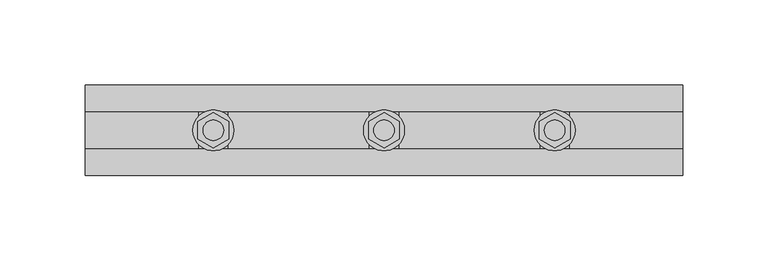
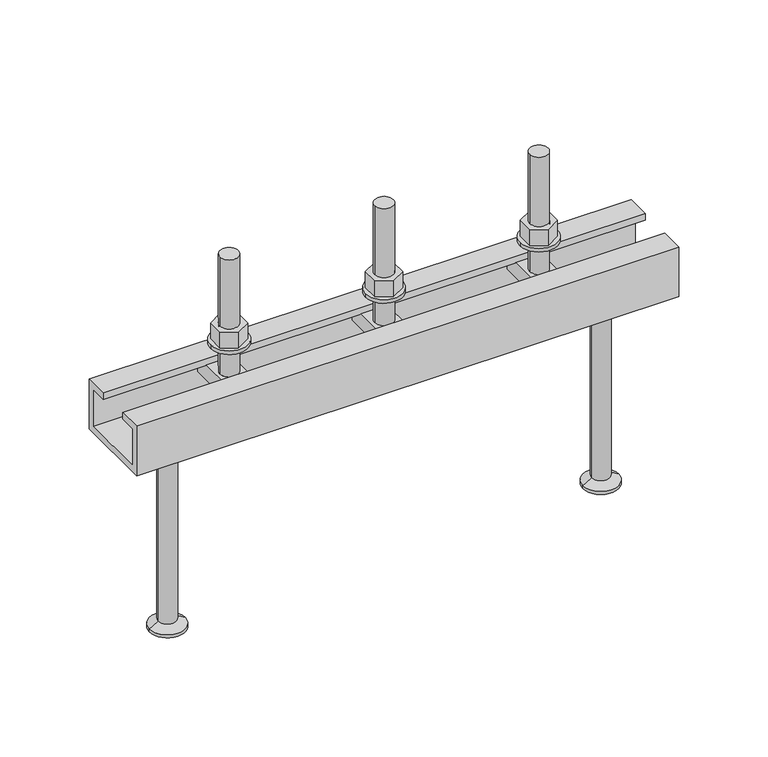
"""IFC4 building model written with IfcOpenShell, lengths in millimetres: fastener geometry, JTA-K JORDAHL® AnchorChannels : JTA-K L=350 mm."""

from ifc_helpers import new_model, si_unit, point, frame, frame_2d, origin, place, context, project, spatial, polyline, circle_curve, trimmed, segment, composite_curve, outline, extrude, source, transform, mapped, element, save
from ifc_brep_helpers import plane_surface, cylinder_surface, revolved_surface, advanced_brep


def fastener_4a2195e9(model_context):
    return source(origin(), model_context, "Body", "SolidModel", [
        extrude(outline(polyline([(175.0, -10.3923048), (166.0, -5.1961524), (166.0, 5.1961524), (175.0, 10.3923048), (184.0, 5.1961524), (184.0, -5.1961524), (175.0, -10.3923048)]), holes=[composite_curve([segment(trimmed(circle_curve(frame_2d((175.0, 0.0)), 6.0), [point((169.0, 0.0))], [point((181.0, 0.0))], True, "CARTESIAN"), True, "CONTINUOUS"), segment(trimmed(circle_curve(frame_2d((175.0, 0.0)), 6.0), [point((181.0, 0.0))], [point((169.0, 0.0))], True, "CARTESIAN"), True, "CONTINUOUS")], self_intersect=False)]), frame((0.0, 0.0, 17.5), z_axis=(0.0, 0.0, 1.0), x_axis=(1.0, 0.0, 0.0)), (0.0, 0.0, 1.0), 10.8),
        extrude(outline(composite_curve([segment(trimmed(circle_curve(frame_2d((175.0, 0.0)), 12.0), [point((163.0, 0.0))], [point((187.0, 0.0))], False, "CARTESIAN"), True, "CONTINUOUS"), segment(trimmed(circle_curve(frame_2d((175.0, 0.0)), 12.0), [point((187.0, 0.0))], [point((163.0, 0.0))], False, "CARTESIAN"), True, "CONTINUOUS")], self_intersect=False), holes=[composite_curve([segment(trimmed(circle_curve(frame_2d((175.0, 0.0)), 6.5), [point((168.5, 0.0))], [point((181.5, 0.0))], True, "CARTESIAN"), True, "CONTINUOUS"), segment(trimmed(circle_curve(frame_2d((175.0, 0.0)), 6.5), [point((181.5, 0.0))], [point((168.5, 0.0))], True, "CARTESIAN"), True, "CONTINUOUS")], self_intersect=False)]), frame((0.0, 0.0, 15.0), z_axis=(0.0, 0.0, 1.0), x_axis=(1.0, 0.0, 0.0)), (0.0, 0.0, 1.0), 2.5),
        advanced_brep(
        [(183.5, -20.7, -4.5), (183.5, -20.7, -14.5), (183.5, 20.7, -14.5), (183.5, 20.7, -4.5), (166.5, -20.7, -4.5), (166.5, 20.7, -4.5), (166.5, 20.7, -14.5), (166.5, -20.7, -14.5), (181.0, 0.0, -4.5), (169.0, 0.0, -4.5), (169.0, 0.0, 75.5), (181.0, 0.0, 75.5)],
        [
            (0, 1),
            (1, 2),
            (2, 3),
            (3, 0),
            (4, 5),
            (5, 6),
            (6, 7),
            (7, 4),
            (3, 5),
            (4, 0),
            (8, 9, circle_curve(frame((175.0, 0.0, -4.5), z_axis=(0.0, 0.0, -1.0), x_axis=(1.0, 0.0, 0.0)), 6.0)),
            (9, 8, circle_curve(frame((175.0, 0.0, -4.5), z_axis=(0.0, 0.0, -1.0), x_axis=(1.0, 0.0, 0.0)), 6.0)),
            (2, 6),
            (1, 7),
            (10, 11, circle_curve(frame((175.0, 0.0, 75.5), z_axis=(0.0, 0.0, 1.0), x_axis=(1.0, 0.0, 0.0)), 6.0)),
            (11, 10, circle_curve(frame((175.0, 0.0, 75.5), z_axis=(0.0, 0.0, 1.0), x_axis=(1.0, 0.0, 0.0)), 6.0)),
            (11, 8),
            (9, 10),
        ],
        [
            plane_surface(frame((183.5, 20.7, -4.5), z_axis=(1.0, 0.0, 0.0), x_axis=(0.0, 1.0, 0.0))),
            plane_surface(frame((166.5, 20.7, -4.5), z_axis=(-1.0, 0.0, 0.0), x_axis=(0.0, -1.0, 0.0))),
            plane_surface(frame((183.5, -20.7, -4.5), z_axis=(0.0, 0.0, 1.0), x_axis=(-1.0, 0.0, 0.0))),
            plane_surface(frame((183.5, 20.7, -4.5), z_axis=(0.0, 1.0, 0.0), x_axis=(-1.0, 0.0, 0.0))),
            plane_surface(frame((183.5, 20.7, -14.5), z_axis=(0.0, 0.0, -1.0), x_axis=(-1.0, 0.0, 0.0))),
            plane_surface(frame((183.5, -20.7, -14.5), z_axis=(0.0, -1.0, 0.0), x_axis=(-1.0, 0.0, 0.0))),
            plane_surface(frame((181.0, 0.0, 75.5), z_axis=(0.0, 0.0, 1.0), x_axis=(0.0, -1.0, 0.0))),
            cylinder_surface(frame((175.0, 0.0, -4.5), z_axis=(0.0, 0.0, 1.0), x_axis=(1.0, 0.0, 0.0)), 6.0),
        ],
        [
            (0, [[1, 2, 3, 4]]),
            (1, [[5, 6, 7, 8]]),
            (2, [[9, -5, 10, -4], [11, 12]]),
            (3, [[13, -6, -9, -3]]),
            (4, [[14, -7, -13, -2]]),
            (5, [[-10, -8, -14, -1]]),
            (6, [[15, 16]]),
            (7, [[17, -12, 18, -16]]),
            (7, [[-18, -11, -17, -15]]),
        ],
    ),
        extrude(outline(polyline([(275.0, -10.3923048), (266.0, -5.1961524), (266.0, 5.1961524), (275.0, 10.3923048), (284.0, 5.1961524), (284.0, -5.1961524), (275.0, -10.3923048)]), holes=[composite_curve([segment(trimmed(circle_curve(frame_2d((275.0, 0.0)), 6.0), [point((269.0, 0.0))], [point((281.0, 0.0))], True, "CARTESIAN"), True, "CONTINUOUS"), segment(trimmed(circle_curve(frame_2d((275.0, 0.0)), 6.0), [point((281.0, 0.0))], [point((269.0, 0.0))], True, "CARTESIAN"), True, "CONTINUOUS")], self_intersect=False)]), frame((0.0, 0.0, 17.5), z_axis=(0.0, 0.0, 1.0), x_axis=(1.0, 0.0, 0.0)), (0.0, 0.0, 1.0), 10.8),
        extrude(outline(composite_curve([segment(trimmed(circle_curve(frame_2d((275.0, 0.0)), 12.0), [point((263.0, 0.0))], [point((287.0, 0.0))], False, "CARTESIAN"), True, "CONTINUOUS"), segment(trimmed(circle_curve(frame_2d((275.0, 0.0)), 12.0), [point((287.0, 0.0))], [point((263.0, 0.0))], False, "CARTESIAN"), True, "CONTINUOUS")], self_intersect=False), holes=[composite_curve([segment(trimmed(circle_curve(frame_2d((275.0, 0.0)), 6.5), [point((268.5, 0.0))], [point((281.5, 0.0))], True, "CARTESIAN"), True, "CONTINUOUS"), segment(trimmed(circle_curve(frame_2d((275.0, 0.0)), 6.5), [point((281.5, 0.0))], [point((268.5, 0.0))], True, "CARTESIAN"), True, "CONTINUOUS")], self_intersect=False)]), frame((0.0, 0.0, 15.0), z_axis=(0.0, 0.0, 1.0), x_axis=(1.0, 0.0, 0.0)), (0.0, 0.0, 1.0), 2.5),
        extrude(outline(polyline([(75.0, -10.3923048), (66.0, -5.1961524), (66.0, 5.1961524), (75.0, 10.3923048), (84.0, 5.1961524), (84.0, -5.1961524), (75.0, -10.3923048)]), holes=[composite_curve([segment(trimmed(circle_curve(frame_2d((75.0, 0.0)), 6.0), [point((69.0, 0.0))], [point((81.0, 0.0))], True, "CARTESIAN"), True, "CONTINUOUS"), segment(trimmed(circle_curve(frame_2d((75.0, 0.0)), 6.0), [point((81.0, 0.0))], [point((69.0, 0.0))], True, "CARTESIAN"), True, "CONTINUOUS")], self_intersect=False)]), frame((0.0, 0.0, 17.5), z_axis=(0.0, 0.0, 1.0), x_axis=(1.0, 0.0, 0.0)), (0.0, 0.0, 1.0), 10.8),
        extrude(outline(composite_curve([segment(trimmed(circle_curve(frame_2d((75.0, 0.0)), 12.0), [point((63.0, 0.0))], [point((87.0, 0.0))], False, "CARTESIAN"), True, "CONTINUOUS"), segment(trimmed(circle_curve(frame_2d((75.0, 0.0)), 12.0), [point((87.0, 0.0))], [point((63.0, 0.0))], False, "CARTESIAN"), True, "CONTINUOUS")], self_intersect=False), holes=[composite_curve([segment(trimmed(circle_curve(frame_2d((75.0, 0.0)), 6.5), [point((68.5, 0.0))], [point((81.5, 0.0))], True, "CARTESIAN"), True, "CONTINUOUS"), segment(trimmed(circle_curve(frame_2d((75.0, 0.0)), 6.5), [point((81.5, 0.0))], [point((68.5, 0.0))], True, "CARTESIAN"), True, "CONTINUOUS")], self_intersect=False)]), frame((0.0, 0.0, 15.0), z_axis=(0.0, 0.0, 1.0), x_axis=(1.0, 0.0, 0.0)), (0.0, 0.0, 1.0), 2.5),
        advanced_brep(
        [(283.5, -20.7, -4.5), (283.5, -20.7, -14.5), (283.5, 20.7, -14.5), (283.5, 20.7, -4.5), (266.5, -20.7, -4.5), (266.5, 20.7, -4.5), (266.5, 20.7, -14.5), (266.5, -20.7, -14.5), (281.0, 0.0, -4.5), (269.0, 0.0, -4.5), (269.0, 0.0, 75.5), (281.0, 0.0, 75.5)],
        [
            (0, 1),
            (1, 2),
            (2, 3),
            (3, 0),
            (4, 5),
            (5, 6),
            (6, 7),
            (7, 4),
            (3, 5),
            (4, 0),
            (8, 9, circle_curve(frame((275.0, 0.0, -4.5), z_axis=(0.0, 0.0, -1.0), x_axis=(1.0, 0.0, 0.0)), 6.0)),
            (9, 8, circle_curve(frame((275.0, 0.0, -4.5), z_axis=(0.0, 0.0, -1.0), x_axis=(1.0, 0.0, 0.0)), 6.0)),
            (2, 6),
            (1, 7),
            (10, 11, circle_curve(frame((275.0, 0.0, 75.5), z_axis=(0.0, 0.0, 1.0), x_axis=(1.0, 0.0, 0.0)), 6.0)),
            (11, 10, circle_curve(frame((275.0, 0.0, 75.5), z_axis=(0.0, 0.0, 1.0), x_axis=(1.0, 0.0, 0.0)), 6.0)),
            (11, 8),
            (9, 10),
        ],
        [
            plane_surface(frame((283.5, 20.7, -4.5), z_axis=(1.0, 0.0, 0.0), x_axis=(0.0, 1.0, 0.0))),
            plane_surface(frame((266.5, 20.7, -4.5), z_axis=(-1.0, 0.0, 0.0), x_axis=(0.0, -1.0, 0.0))),
            plane_surface(frame((283.5, -20.7, -4.5), z_axis=(0.0, 0.0, 1.0), x_axis=(-1.0, 0.0, 0.0))),
            plane_surface(frame((283.5, 20.7, -4.5), z_axis=(0.0, 1.0, 0.0), x_axis=(-1.0, 0.0, 0.0))),
            plane_surface(frame((283.5, 20.7, -14.5), z_axis=(0.0, 0.0, -1.0), x_axis=(-1.0, 0.0, 0.0))),
            plane_surface(frame((283.5, -20.7, -14.5), z_axis=(0.0, -1.0, 0.0), x_axis=(-1.0, 0.0, 0.0))),
            plane_surface(frame((281.0, 0.0, 75.5), z_axis=(0.0, 0.0, 1.0), x_axis=(0.0, -1.0, 0.0))),
            cylinder_surface(frame((275.0, 0.0, -4.5), z_axis=(0.0, 0.0, 1.0), x_axis=(1.0, 0.0, 0.0)), 6.0),
        ],
        [
            (0, [[1, 2, 3, 4]]),
            (1, [[5, 6, 7, 8]]),
            (2, [[9, -5, 10, -4], [11, 12]]),
            (3, [[13, -6, -9, -3]]),
            (4, [[14, -7, -13, -2]]),
            (5, [[-10, -8, -14, -1]]),
            (6, [[15, 16]]),
            (7, [[17, -12, 18, -16]]),
            (7, [[-18, -11, -17, -15]]),
        ],
    ),
        advanced_brep(
        [(83.5, -20.7, -4.5), (83.5, -20.7, -14.5), (83.5, 20.7, -14.5), (83.5, 20.7, -4.5), (66.5, -20.7, -4.5), (66.5, 20.7, -4.5), (66.5, 20.7, -14.5), (66.5, -20.7, -14.5), (81.0, 0.0, -4.5), (69.0, 0.0, -4.5), (69.0, 0.0, 75.5), (81.0, 0.0, 75.5)],
        [
            (0, 1),
            (1, 2),
            (2, 3),
            (3, 0),
            (4, 5),
            (5, 6),
            (6, 7),
            (7, 4),
            (3, 5),
            (4, 0),
            (8, 9, circle_curve(frame((75.0, 0.0, -4.5), z_axis=(0.0, 0.0, -1.0), x_axis=(1.0, 0.0, 0.0)), 6.0)),
            (9, 8, circle_curve(frame((75.0, 0.0, -4.5), z_axis=(0.0, 0.0, -1.0), x_axis=(1.0, 0.0, 0.0)), 6.0)),
            (2, 6),
            (1, 7),
            (10, 11, circle_curve(frame((75.0, 0.0, 75.5), z_axis=(0.0, 0.0, 1.0), x_axis=(1.0, 0.0, 0.0)), 6.0)),
            (11, 10, circle_curve(frame((75.0, 0.0, 75.5), z_axis=(0.0, 0.0, 1.0), x_axis=(1.0, 0.0, 0.0)), 6.0)),
            (11, 8),
            (9, 10),
        ],
        [
            plane_surface(frame((83.5, 20.7, -4.5), z_axis=(1.0, 0.0, 0.0), x_axis=(0.0, 1.0, 0.0))),
            plane_surface(frame((66.5, 20.7, -4.5), z_axis=(-1.0, 0.0, 0.0), x_axis=(0.0, -1.0, 0.0))),
            plane_surface(frame((83.5, -20.7, -4.5), z_axis=(0.0, 0.0, 1.0), x_axis=(-1.0, 0.0, 0.0))),
            plane_surface(frame((83.5, 20.7, -4.5), z_axis=(0.0, 1.0, 0.0), x_axis=(-1.0, 0.0, 0.0))),
            plane_surface(frame((83.5, 20.7, -14.5), z_axis=(0.0, 0.0, -1.0), x_axis=(-1.0, 0.0, 0.0))),
            plane_surface(frame((83.5, -20.7, -14.5), z_axis=(0.0, -1.0, 0.0), x_axis=(-1.0, 0.0, 0.0))),
            plane_surface(frame((81.0, 0.0, 75.5), z_axis=(0.0, 0.0, 1.0), x_axis=(0.0, -1.0, 0.0))),
            cylinder_surface(frame((75.0, 0.0, -4.5), z_axis=(0.0, 0.0, 1.0), x_axis=(1.0, 0.0, 0.0)), 6.0),
        ],
        [
            (0, [[1, 2, 3, 4]]),
            (1, [[5, 6, 7, 8]]),
            (2, [[9, -5, 10, -4], [11, 12]]),
            (3, [[13, -6, -9, -3]]),
            (4, [[14, -7, -13, -2]]),
            (5, [[-10, -8, -14, -1]]),
            (6, [[15, 16]]),
            (7, [[17, -12, 18, -16]]),
            (7, [[-18, -11, -17, -15]]),
        ],
    ),
        advanced_brep(
        [(315.0, 0.0, -34.0), (297.5, 0.0, -34.0), (332.5, 0.0, -34.0), (303.5, 0.0, -165.0), (315.0, 0.0, -165.0), (326.5, 0.0, -165.0), (303.5, 0.0, -163.0), (326.5, 0.0, -163.0), (309.2, 0.0, -159.7091035), (320.8, 0.0, -159.7091035), (309.2, 0.0, -37.0), (320.8, 0.0, -37.0)],
        [
            (0, 1),
            (1, 2, circle_curve(frame((315.0, 0.0, -34.0), z_axis=(0.0, 0.0, 1.0), x_axis=(1.0, 0.0, 0.0)), 17.5)),
            (2, 0),
            (2, 1, circle_curve(frame((315.0, 0.0, -34.0), z_axis=(0.0, 0.0, 1.0), x_axis=(1.0, 0.0, 0.0)), 17.5)),
            (3, 4),
            (4, 5),
            (5, 3, circle_curve(frame((315.0, 0.0, -165.0), z_axis=(0.0, 0.0, -1.0), x_axis=(1.0, 0.0, 0.0)), 11.5)),
            (3, 5, circle_curve(frame((315.0, 0.0, -165.0), z_axis=(0.0, 0.0, -1.0), x_axis=(1.0, 0.0, 0.0)), 11.5)),
            (6, 3),
            (5, 7),
            (7, 6, circle_curve(frame((315.0, 0.0, -163.0), z_axis=(0.0, 0.0, -1.0), x_axis=(1.0, 0.0, 0.0)), 11.5)),
            (6, 7, circle_curve(frame((315.0, 0.0, -163.0), z_axis=(0.0, 0.0, -1.0), x_axis=(1.0, 0.0, 0.0)), 11.5)),
            (8, 6),
            (7, 9),
            (9, 8, circle_curve(frame((315.0, 0.0, -159.7091035), z_axis=(0.0, 0.0, -1.0), x_axis=(1.0, 0.0, 0.0)), 5.8)),
            (8, 9, circle_curve(frame((315.0, 0.0, -159.7091035), z_axis=(0.0, 0.0, -1.0), x_axis=(1.0, 0.0, 0.0)), 5.8)),
            (10, 8),
            (9, 11),
            (11, 10, circle_curve(frame((315.0, 0.0, -37.0), z_axis=(0.0, 0.0, -1.0), x_axis=(1.0, 0.0, 0.0)), 5.8)),
            (10, 11, circle_curve(frame((315.0, 0.0, -37.0), z_axis=(0.0, 0.0, -1.0), x_axis=(1.0, 0.0, 0.0)), 5.8)),
            (1, 10),
            (11, 2),
        ],
        [
            plane_surface(frame((315.0, 0.0, -34.0), z_axis=(0.0, 0.0, 1.0), x_axis=(1.0, 0.0, 0.0))),
            plane_surface(frame((315.0, 0.0, -165.0), z_axis=(0.0, 0.0, -1.0), x_axis=(1.0, 0.0, 0.0))),
            cylinder_surface(frame((315.0, 0.0, 2345.3150031), z_axis=(0.0, 0.0, 1.0), x_axis=(1.0, 0.0, 0.0)), 11.5),
            revolved_surface(polyline([(326.5, 0.0, -163.0), (320.8, 0.0, -159.7091035)]), (315.0, 0.0, 2345.3150031), (0.0, 0.0, 1.0)),
            cylinder_surface(frame((315.0, 0.0, 2345.3150031), z_axis=(0.0, 0.0, 1.0), x_axis=(1.0, 0.0, 0.0)), 5.8),
            revolved_surface(polyline([(320.8, 0.0, -37.0), (332.5, 0.0, -34.0)]), (315.0, 0.0, 2345.3150031), (0.0, 0.0, 1.0)),
        ],
        [
            (0, [[1, 2, 3]]),
            (0, [[-3, 4, -1]]),
            (1, [[5, 6, 7]]),
            (1, [[-6, -5, 8]]),
            (2, [[9, -7, 10, 11]]),
            (2, [[-10, -8, -9, 12]]),
            (3, [[13, -11, 14, 15]]),
            (3, [[-14, -12, -13, 16]]),
            (4, [[17, -15, 18, 19]]),
            (4, [[-18, -16, -17, 20]]),
            (5, [[21, -19, 22, -2]]),
            (5, [[-22, -20, -21, -4]]),
        ],
    ),
        advanced_brep(
        [(35.0, 0.0, -34.0), (17.5, 0.0, -34.0), (52.5, 0.0, -34.0), (23.5, 0.0, -165.0), (35.0, 0.0, -165.0), (46.5, 0.0, -165.0), (23.5, 0.0, -163.0), (46.5, 0.0, -163.0), (29.2, 0.0, -159.7091035), (40.8, 0.0, -159.7091035), (29.2, 0.0, -37.0), (40.8, 0.0, -37.0)],
        [
            (0, 1),
            (1, 2, circle_curve(frame((35.0, 0.0, -34.0), z_axis=(0.0, 0.0, 1.0), x_axis=(1.0, 0.0, 0.0)), 17.5)),
            (2, 0),
            (2, 1, circle_curve(frame((35.0, 0.0, -34.0), z_axis=(0.0, 0.0, 1.0), x_axis=(1.0, 0.0, 0.0)), 17.5)),
            (3, 4),
            (4, 5),
            (5, 3, circle_curve(frame((35.0, 0.0, -165.0), z_axis=(0.0, 0.0, -1.0), x_axis=(1.0, 0.0, 0.0)), 11.5)),
            (3, 5, circle_curve(frame((35.0, 0.0, -165.0), z_axis=(0.0, 0.0, -1.0), x_axis=(1.0, 0.0, 0.0)), 11.5)),
            (6, 3),
            (5, 7),
            (7, 6, circle_curve(frame((35.0, 0.0, -163.0), z_axis=(0.0, 0.0, -1.0), x_axis=(1.0, 0.0, 0.0)), 11.5)),
            (6, 7, circle_curve(frame((35.0, 0.0, -163.0), z_axis=(0.0, 0.0, -1.0), x_axis=(1.0, 0.0, 0.0)), 11.5)),
            (8, 6),
            (7, 9),
            (9, 8, circle_curve(frame((35.0, 0.0, -159.7091035), z_axis=(0.0, 0.0, -1.0), x_axis=(1.0, 0.0, 0.0)), 5.8)),
            (8, 9, circle_curve(frame((35.0, 0.0, -159.7091035), z_axis=(0.0, 0.0, -1.0), x_axis=(1.0, 0.0, 0.0)), 5.8)),
            (10, 8),
            (9, 11),
            (11, 10, circle_curve(frame((35.0, 0.0, -37.0), z_axis=(0.0, 0.0, -1.0), x_axis=(1.0, 0.0, 0.0)), 5.8)),
            (10, 11, circle_curve(frame((35.0, 0.0, -37.0), z_axis=(0.0, 0.0, -1.0), x_axis=(1.0, 0.0, 0.0)), 5.8)),
            (1, 10),
            (11, 2),
        ],
        [
            plane_surface(frame((35.0, 0.0, -34.0), z_axis=(0.0, 0.0, 1.0), x_axis=(1.0, 0.0, 0.0))),
            plane_surface(frame((35.0, 0.0, -165.0), z_axis=(0.0, 0.0, -1.0), x_axis=(1.0, 0.0, 0.0))),
            cylinder_surface(frame((35.0, 0.0, 2345.3150031), z_axis=(0.0, 0.0, 1.0), x_axis=(1.0, 0.0, 0.0)), 11.5),
            revolved_surface(polyline([(46.5, 0.0, -163.0), (40.8, 0.0, -159.7091035)]), (35.0, 0.0, 2345.3150031), (0.0, 0.0, 1.0)),
            cylinder_surface(frame((35.0, 0.0, 2345.3150031), z_axis=(0.0, 0.0, 1.0), x_axis=(1.0, 0.0, 0.0)), 5.8),
            revolved_surface(polyline([(40.8, 0.0, -37.0), (52.5, 0.0, -34.0)]), (35.0, 0.0, 2345.3150031), (0.0, 0.0, 1.0)),
        ],
        [
            (0, [[1, 2, 3]]),
            (0, [[-3, 4, -1]]),
            (1, [[5, 6, 7]]),
            (1, [[-6, -5, 8]]),
            (2, [[9, -7, 10, 11]]),
            (2, [[-10, -8, -9, 12]]),
            (3, [[13, -11, 14, 15]]),
            (3, [[-14, -12, -13, 16]]),
            (4, [[17, -15, 18, 19]]),
            (4, [[-18, -16, -17, 20]]),
            (5, [[21, -19, 22, -2]]),
            (5, [[-22, -20, -21, -4]]),
        ],
    ),
        extrude(outline(polyline([(-26.5, 0.0), (-11.0, 0.0), (-11.0, -4.5), (-22.0, -4.5), (-22.0, -29.5), (22.0, -29.5), (22.0, -4.5), (11.0, -4.5), (11.0, 0.0), (26.5, 0.0), (26.5, -34.0), (-26.5, -34.0), (-26.5, 0.0)])), frame((0.0, 0.0, 0.0), z_axis=(1.0, 0.0, 0.0), x_axis=(0.0, 1.0, 0.0)), (0.0, 0.0, 1.0), 350.0),
    ])


if __name__ == "__main__":
    model = new_model("IFC4")
    model_context = context("Model", 3, world=origin())
    ifc_project = project(units=[si_unit("LENGTHUNIT", "METRE", prefix="MILLI")], contexts=[model_context])
    site = spatial("IfcSite", under=ifc_project)
    building = spatial("IfcBuilding", under=site)
    placement = place(None, origin())
    fastener_shape = fastener_4a2195e9(model_context)
    element("IfcFastener", 1, ObjectType="JTA-K JORDAHL® AnchorChannels : JTA-K L=350 mm", at=placement, inside=building, context=model_context, shape_type="MappedRepresentation", body=[
        mapped(fastener_shape, transform((0.0, 0.0, 0.0), x_axis=(1.0, 0.0, 0.0), y_axis=(0.0, 1.0, 0.0), z_axis=(0.0, 0.0, 1.0))),
    ])
    save(model, "model.ifc")
